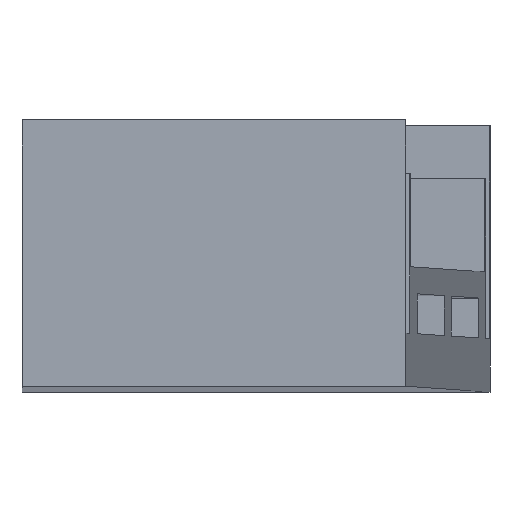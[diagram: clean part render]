
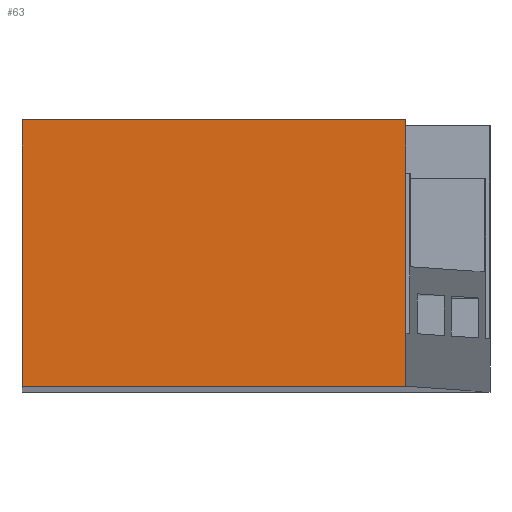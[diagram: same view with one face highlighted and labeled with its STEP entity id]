
A CAD part, top view. The second image highlights one B-rep face of the part: STEP entity #63.
In plain terms, the highlighted planar face has unit normal (0, 0, 1).
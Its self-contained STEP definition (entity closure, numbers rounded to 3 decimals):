
#63=ADVANCED_FACE('',(#119),#121,.T.);
#119=FACE_BOUND('',#120,.T.);
#120=EDGE_LOOP('',(#294,#295,#296,#297));
#121=PLANE('',#122);
#122=AXIS2_PLACEMENT_3D('',#123,#124,#125);
#123=CARTESIAN_POINT('',(0.,0.,125.));
#124=DIRECTION('',(0.,0.,1.));
#125=DIRECTION('',(1.,0.,0.));
#294=ORIENTED_EDGE('',*,*,#438,.T.);
#295=ORIENTED_EDGE('',*,*,#439,.T.);
#296=ORIENTED_EDGE('',*,*,#440,.T.);
#297=ORIENTED_EDGE('',*,*,#441,.T.);
#438=EDGE_CURVE('',#530,#531,#532,.F.);
#439=EDGE_CURVE('',#531,#533,#534,.T.);
#440=EDGE_CURVE('',#533,#535,#536,.F.);
#441=EDGE_CURVE('',#535,#530,#537,.T.);
#530=VERTEX_POINT('',#690);
#531=VERTEX_POINT('',#691);
#532=LINE('',#692,#693);
#533=VERTEX_POINT('',#695);
#534=LINE('',#696,#697);
#535=VERTEX_POINT('',#699);
#536=LINE('',#700,#701);
#537=LINE('',#703,#704);
#690=CARTESIAN_POINT('',(15.421,-454.555,125.));
#691=CARTESIAN_POINT('',(15.421,-444.555,125.));
#692=CARTESIAN_POINT('',(15.421,-444.555,125.));
#693=VECTOR('',#694,1.);
#694=DIRECTION('',(0.,-1.,0.));
#695=CARTESIAN_POINT('',(1.025,-444.555,125.));
#696=CARTESIAN_POINT('',(15.421,-444.555,125.));
#697=VECTOR('',#698,1.);
#698=DIRECTION('',(-1.,0.,0.));
#699=CARTESIAN_POINT('',(1.025,-454.555,125.));
#700=CARTESIAN_POINT('',(1.025,-454.555,125.));
#701=VECTOR('',#702,1.);
#702=DIRECTION('',(0.,1.,0.));
#703=CARTESIAN_POINT('',(1.025,-454.555,125.));
#704=VECTOR('',#705,1.);
#705=DIRECTION('',(1.,0.,0.));
